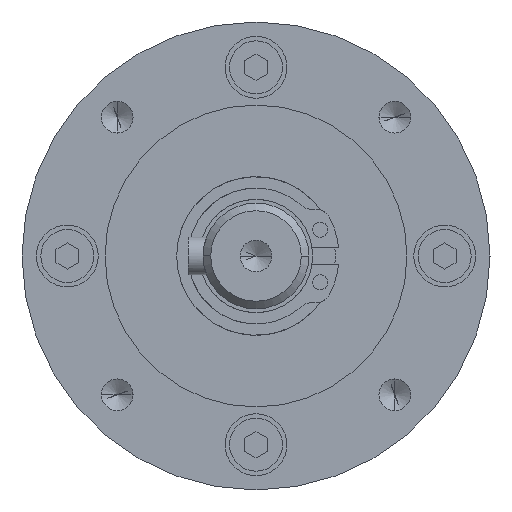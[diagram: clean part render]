
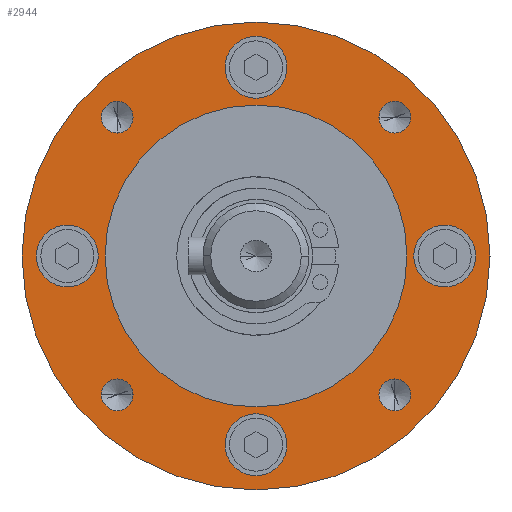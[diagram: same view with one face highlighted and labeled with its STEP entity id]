
A CAD part, left-side view. The second image highlights one B-rep face of the part: STEP entity #2944.
In plain terms, the highlighted planar face has unit normal (-1, 0, 0).
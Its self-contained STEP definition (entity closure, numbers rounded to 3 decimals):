
#282=CARTESIAN_POINT('',(-72.5,0.,0.));
#283=DIRECTION('',(1.,0.,0.));
#284=DIRECTION('',(0.,1.,0.));
#285=AXIS2_PLACEMENT_3D('',#282,#283,#284);
#290=CARTESIAN_POINT('',(-72.5,0.,0.));
#291=DIRECTION('',(1.,0.,0.));
#292=DIRECTION('',(0.,-1.,0.));
#293=AXIS2_PLACEMENT_3D('',#290,#291,#292);
#298=CARTESIAN_POINT('',(-72.5,0.,0.));
#299=DIRECTION('',(-1.,0.,0.));
#300=DIRECTION('',(0.,1.,0.));
#301=AXIS2_PLACEMENT_3D('',#298,#299,#300);
#306=CARTESIAN_POINT('',(-72.5,0.,0.));
#307=DIRECTION('',(-1.,0.,0.));
#308=DIRECTION('',(0.,-1.,0.));
#309=AXIS2_PLACEMENT_3D('',#306,#307,#308);
#314=CARTESIAN_POINT('',(-72.5,-18.385,18.385));
#315=DIRECTION('',(-1.,0.,0.));
#316=DIRECTION('',(0.,1.,0.));
#317=AXIS2_PLACEMENT_3D('',#314,#315,#316);
#322=CARTESIAN_POINT('',(-72.5,-18.385,18.385));
#323=DIRECTION('',(-1.,0.,0.));
#324=DIRECTION('',(0.,-1.,0.));
#325=AXIS2_PLACEMENT_3D('',#322,#323,#324);
#330=CARTESIAN_POINT('',(-72.5,18.385,18.385));
#331=DIRECTION('',(-1.,0.,0.));
#332=DIRECTION('',(0.,0.,-1.));
#333=AXIS2_PLACEMENT_3D('',#330,#331,#332);
#338=CARTESIAN_POINT('',(-72.5,18.385,18.385));
#339=DIRECTION('',(-1.,0.,0.));
#340=DIRECTION('',(0.,0.,1.));
#341=AXIS2_PLACEMENT_3D('',#338,#339,#340);
#346=CARTESIAN_POINT('',(-72.5,18.385,-18.385));
#347=DIRECTION('',(-1.,0.,0.));
#348=DIRECTION('',(0.,-1.,0.));
#349=AXIS2_PLACEMENT_3D('',#346,#347,#348);
#354=CARTESIAN_POINT('',(-72.5,18.385,-18.385));
#355=DIRECTION('',(-1.,0.,0.));
#356=DIRECTION('',(0.,1.,0.));
#357=AXIS2_PLACEMENT_3D('',#354,#355,#356);
#362=CARTESIAN_POINT('',(-72.5,-18.385,-18.385));
#363=DIRECTION('',(-1.,0.,0.));
#364=DIRECTION('',(0.,0.,1.));
#365=AXIS2_PLACEMENT_3D('',#362,#363,#364);
#370=CARTESIAN_POINT('',(-72.5,-18.385,-18.385));
#371=DIRECTION('',(-1.,0.,0.));
#372=DIRECTION('',(0.,0.,-1.));
#373=AXIS2_PLACEMENT_3D('',#370,#371,#372);
#378=CARTESIAN_POINT('',(-72.5,25.,0.));
#379=DIRECTION('',(-1.,0.,0.));
#380=DIRECTION('',(0.,0.,1.));
#381=AXIS2_PLACEMENT_3D('',#378,#379,#380);
#386=CARTESIAN_POINT('',(-72.5,25.,0.));
#387=DIRECTION('',(-1.,0.,0.));
#388=DIRECTION('',(0.,0.,-1.));
#389=AXIS2_PLACEMENT_3D('',#386,#387,#388);
#394=CARTESIAN_POINT('',(-72.5,0.,25.));
#395=DIRECTION('',(-1.,0.,0.));
#396=DIRECTION('',(0.,0.,1.));
#397=AXIS2_PLACEMENT_3D('',#394,#395,#396);
#402=CARTESIAN_POINT('',(-72.5,0.,25.));
#403=DIRECTION('',(-1.,0.,0.));
#404=DIRECTION('',(0.,0.,-1.));
#405=AXIS2_PLACEMENT_3D('',#402,#403,#404);
#410=CARTESIAN_POINT('',(-72.5,-25.,0.));
#411=DIRECTION('',(-1.,0.,0.));
#412=DIRECTION('',(0.,0.,1.));
#413=AXIS2_PLACEMENT_3D('',#410,#411,#412);
#418=CARTESIAN_POINT('',(-72.5,-25.,0.));
#419=DIRECTION('',(-1.,0.,0.));
#420=DIRECTION('',(0.,0.,-1.));
#421=AXIS2_PLACEMENT_3D('',#418,#419,#420);
#426=CARTESIAN_POINT('',(-72.5,0.,-25.));
#427=DIRECTION('',(-1.,0.,0.));
#428=DIRECTION('',(0.,0.,1.));
#429=AXIS2_PLACEMENT_3D('',#426,#427,#428);
#434=CARTESIAN_POINT('',(-72.5,0.,-25.));
#435=DIRECTION('',(-1.,0.,0.));
#436=DIRECTION('',(0.,0.,-1.));
#437=AXIS2_PLACEMENT_3D('',#434,#435,#436);
#2301=CARTESIAN_POINT('',(-72.5,-31.,0.));
#2302=VERTEX_POINT('',#2301);
#2303=CARTESIAN_POINT('',(-72.5,31.,0.));
#2304=VERTEX_POINT('',#2303);
#2321=CARTESIAN_POINT('',(-72.5,20.,0.));
#2322=CARTESIAN_POINT('',(-72.5,-20.,0.));
#2323=VERTEX_POINT('',#2321);
#2324=VERTEX_POINT('',#2322);
#2325=CARTESIAN_POINT('',(-72.5,-16.285,18.385));
#2326=CARTESIAN_POINT('',(-72.5,-20.485,18.385));
#2327=VERTEX_POINT('',#2325);
#2328=VERTEX_POINT('',#2326);
#2329=CARTESIAN_POINT('',(-72.5,18.385,16.285));
#2330=CARTESIAN_POINT('',(-72.5,18.385,20.485));
#2331=VERTEX_POINT('',#2329);
#2332=VERTEX_POINT('',#2330);
#2333=CARTESIAN_POINT('',(-72.5,16.285,-18.385));
#2334=CARTESIAN_POINT('',(-72.5,20.485,-18.385));
#2335=VERTEX_POINT('',#2333);
#2336=VERTEX_POINT('',#2334);
#2337=CARTESIAN_POINT('',(-72.5,-18.385,-16.285));
#2338=CARTESIAN_POINT('',(-72.5,-18.385,-20.485));
#2339=VERTEX_POINT('',#2337);
#2340=VERTEX_POINT('',#2338);
#2341=CARTESIAN_POINT('',(-72.5,25.,4.1));
#2342=CARTESIAN_POINT('',(-72.5,25.,-4.1));
#2343=VERTEX_POINT('',#2341);
#2344=VERTEX_POINT('',#2342);
#2345=CARTESIAN_POINT('',(-72.5,0.,29.1));
#2346=CARTESIAN_POINT('',(-72.5,0.,20.9));
#2347=VERTEX_POINT('',#2345);
#2348=VERTEX_POINT('',#2346);
#2349=CARTESIAN_POINT('',(-72.5,-25.,4.1));
#2350=CARTESIAN_POINT('',(-72.5,-25.,-4.1));
#2351=VERTEX_POINT('',#2349);
#2352=VERTEX_POINT('',#2350);
#2353=CARTESIAN_POINT('',(-72.5,0.,-20.9));
#2354=CARTESIAN_POINT('',(-72.5,0.,-29.1));
#2355=VERTEX_POINT('',#2353);
#2356=VERTEX_POINT('',#2354);
#2881=CARTESIAN_POINT('',(-72.5,0.,0.));
#2882=DIRECTION('',(-1.,0.,0.));
#2883=DIRECTION('',(0.,1.,0.));
#2884=AXIS2_PLACEMENT_3D('',#2881,#2882,#2883);
#2885=PLANE('',#2884);
#2886=ORIENTED_EDGE('',*,*,#2848,.T.);
#2887=ORIENTED_EDGE('',*,*,#2863,.T.);
#2888=EDGE_LOOP('',(#2886,#2887));
#2889=FACE_OUTER_BOUND('',#2888,.F.);
#2891=ORIENTED_EDGE('',*,*,#2890,.T.);
#2893=ORIENTED_EDGE('',*,*,#2892,.T.);
#2894=EDGE_LOOP('',(#2891,#2893));
#2895=FACE_BOUND('',#2894,.F.);
#2897=ORIENTED_EDGE('',*,*,#2896,.T.);
#2899=ORIENTED_EDGE('',*,*,#2898,.T.);
#2900=EDGE_LOOP('',(#2897,#2899));
#2901=FACE_BOUND('',#2900,.F.);
#2903=ORIENTED_EDGE('',*,*,#2902,.T.);
#2905=ORIENTED_EDGE('',*,*,#2904,.T.);
#2906=EDGE_LOOP('',(#2903,#2905));
#2907=FACE_BOUND('',#2906,.F.);
#2909=ORIENTED_EDGE('',*,*,#2908,.T.);
#2911=ORIENTED_EDGE('',*,*,#2910,.T.);
#2912=EDGE_LOOP('',(#2909,#2911));
#2913=FACE_BOUND('',#2912,.F.);
#2915=ORIENTED_EDGE('',*,*,#2914,.T.);
#2917=ORIENTED_EDGE('',*,*,#2916,.T.);
#2918=EDGE_LOOP('',(#2915,#2917));
#2919=FACE_BOUND('',#2918,.F.);
#2921=ORIENTED_EDGE('',*,*,#2920,.T.);
#2923=ORIENTED_EDGE('',*,*,#2922,.T.);
#2924=EDGE_LOOP('',(#2921,#2923));
#2925=FACE_BOUND('',#2924,.F.);
#2927=ORIENTED_EDGE('',*,*,#2926,.T.);
#2929=ORIENTED_EDGE('',*,*,#2928,.T.);
#2930=EDGE_LOOP('',(#2927,#2929));
#2931=FACE_BOUND('',#2930,.F.);
#2933=ORIENTED_EDGE('',*,*,#2932,.T.);
#2935=ORIENTED_EDGE('',*,*,#2934,.T.);
#2936=EDGE_LOOP('',(#2933,#2935));
#2937=FACE_BOUND('',#2936,.F.);
#2939=ORIENTED_EDGE('',*,*,#2938,.T.);
#2941=ORIENTED_EDGE('',*,*,#2940,.T.);
#2942=EDGE_LOOP('',(#2939,#2941));
#2943=FACE_BOUND('',#2942,.F.);
#2944=ADVANCED_FACE('',(#2889,#2895,#2901,#2907,#2913,#2919,#2925,#2931,#2937,
#2943),#2885,.T.);
#286=CIRCLE('',#285,31.);
#294=CIRCLE('',#293,31.);
#302=CIRCLE('',#301,20.);
#310=CIRCLE('',#309,20.);
#318=CIRCLE('',#317,2.1);
#326=CIRCLE('',#325,2.1);
#334=CIRCLE('',#333,2.1);
#342=CIRCLE('',#341,2.1);
#350=CIRCLE('',#349,2.1);
#358=CIRCLE('',#357,2.1);
#366=CIRCLE('',#365,2.1);
#374=CIRCLE('',#373,2.1);
#382=CIRCLE('',#381,4.1);
#390=CIRCLE('',#389,4.1);
#398=CIRCLE('',#397,4.1);
#406=CIRCLE('',#405,4.1);
#414=CIRCLE('',#413,4.1);
#422=CIRCLE('',#421,4.1);
#430=CIRCLE('',#429,4.1);
#438=CIRCLE('',#437,4.1);
#2848=EDGE_CURVE('',#2304,#2302,#286,.T.);
#2863=EDGE_CURVE('',#2302,#2304,#294,.T.);
#2890=EDGE_CURVE('',#2323,#2324,#302,.T.);
#2892=EDGE_CURVE('',#2324,#2323,#310,.T.);
#2896=EDGE_CURVE('',#2327,#2328,#318,.T.);
#2898=EDGE_CURVE('',#2328,#2327,#326,.T.);
#2902=EDGE_CURVE('',#2331,#2332,#334,.T.);
#2904=EDGE_CURVE('',#2332,#2331,#342,.T.);
#2908=EDGE_CURVE('',#2335,#2336,#350,.T.);
#2910=EDGE_CURVE('',#2336,#2335,#358,.T.);
#2914=EDGE_CURVE('',#2339,#2340,#366,.T.);
#2916=EDGE_CURVE('',#2340,#2339,#374,.T.);
#2920=EDGE_CURVE('',#2343,#2344,#382,.T.);
#2922=EDGE_CURVE('',#2344,#2343,#390,.T.);
#2926=EDGE_CURVE('',#2347,#2348,#398,.T.);
#2928=EDGE_CURVE('',#2348,#2347,#406,.T.);
#2932=EDGE_CURVE('',#2351,#2352,#414,.T.);
#2934=EDGE_CURVE('',#2352,#2351,#422,.T.);
#2938=EDGE_CURVE('',#2355,#2356,#430,.T.);
#2940=EDGE_CURVE('',#2356,#2355,#438,.T.);
